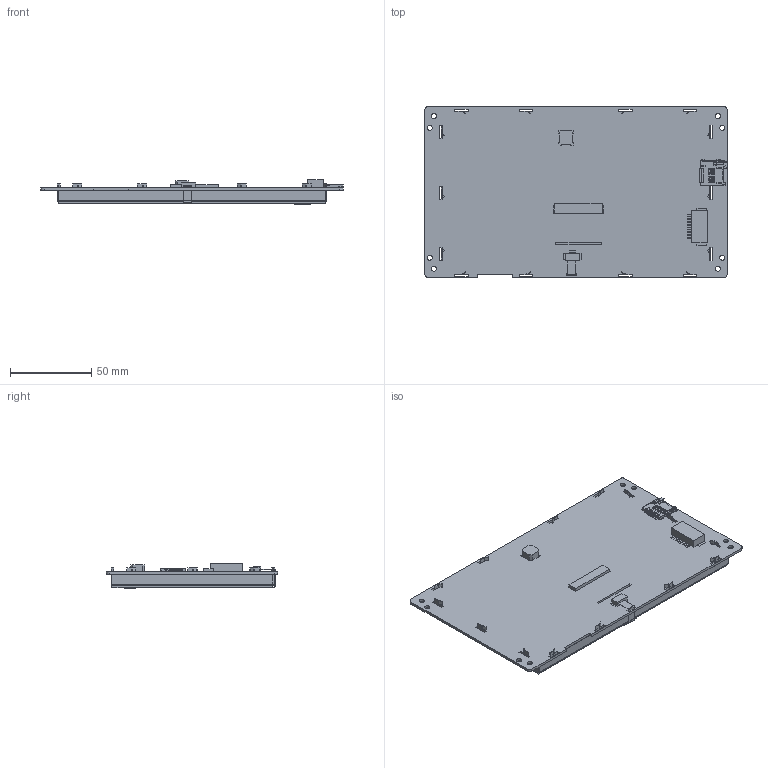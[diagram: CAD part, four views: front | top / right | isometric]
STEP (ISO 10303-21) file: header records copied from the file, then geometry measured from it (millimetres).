
FILE_DESCRIPTION(/* description */ (''),/* implementation_level */ '2;1');
FILE_NAME(/* name */ '3D-SDWb070C84T_stp.stp',/* time_stamp */ '2024-07-02T10:47:16+08:00',/* author */ (''),/* organization */ (''),/* preprocessor_version */ 'ST-DEVELOPER v16',/* originating_system */ 'SIEMENS PLM Software NX 10.0',/* authorisation */ '');
FILE_SCHEMA (('AP203_CONFIGURATION_CONTROLLED_3D_DESIGN_OF_MECHANICAL_PARTS_AND_ASSEMBLIES_MIM_LF { 1 0 10303 403 2 1 2}'));
Length unit declared in the file: millimetre
Products named in the file (1): 3D-SDWb070C84T_stp
Bounding box: 186.3 x 105.4 x 15.1 mm (x, y, z)
Volume: 158363.8 mm3; surface area: 124337.2 mm2
Topology: 15 solids, 15 shells, 1385 faces, 3913 edges, 2536 vertices
Faces by surface type: plane 1088, cylinder 296, cone 1
Full cylindrical faces by diameter (mm): 3.2 x8
Entity records: 45837 total; most frequent: CARTESIAN_POINT 7848, ORIENTED_EDGE 7810, DIRECTION 7267, EDGE_CURVE 3905, LINE 3301, VECTOR 3301, VERTEX_POINT 2536, AXIS2_PLACEMENT_3D 1983
